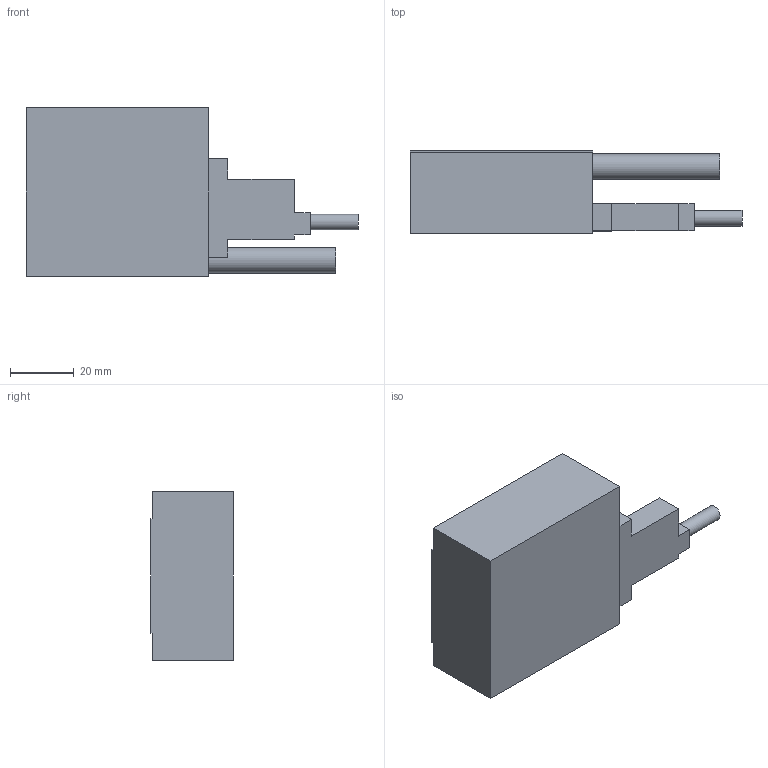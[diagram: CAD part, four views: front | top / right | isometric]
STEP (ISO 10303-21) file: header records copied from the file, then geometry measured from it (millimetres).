
FILE_DESCRIPTION(/* description */ ('STEP AP242 Edition 2','CAx-IF Rec.Pracs.---Representation and Presentation of Product Manufacturing Information (PMI)---4.0---2014-10-13','CAx-IF Rec.Pracs.---3D Tessellated Geometry---0.4---2014-09-14','2;1','CAx-IF Rec.Pracs.---User Defined Attributes---1.5---2016-08-15'),/* implementation_level */ '2;1');
FILE_NAME(/* name */ 'CS10S (1)',/* time_stamp */ '2026-04-13T00:50:38Z',/* author */ (''),/* organization */ (''),/* preprocessor_version */ 'ST-DEVELOPER v20',/* originating_system */ 'ONSHAPE BY PTC INC, 1.213',/* authorisation */ ' ');
FILE_SCHEMA (('AP242_MANAGED_MODEL_BASED_3D_ENGINEERING_MIM_LF { 1 0 10303 442 3 1 4 }'));
Length unit declared in the file: metre
Products named in the file (1): CS10S
Bounding box: 104.5 x 26 x 53 mm (x, y, z)
Volume: 84654.1 mm3; surface area: 16381.8 mm2
Topology: 1 solids, 2 shells, 66 faces, 164 edges, 107 vertices
Faces by surface type: plane 41, cylinder 19, cone 6
Full cylindrical faces by diameter (mm): 2.5 x2, 3.3 x4, 3.4 x2, 4.9 x2, 8 x1
Entity records: 1840 total; most frequent: DIRECTION 314, CARTESIAN_POINT 311, ORIENTED_EDGE 278, EDGE_CURVE 139, AXIS2_PLACEMENT_3D 108, VERTEX_POINT 105, LINE 98, VECTOR 98
